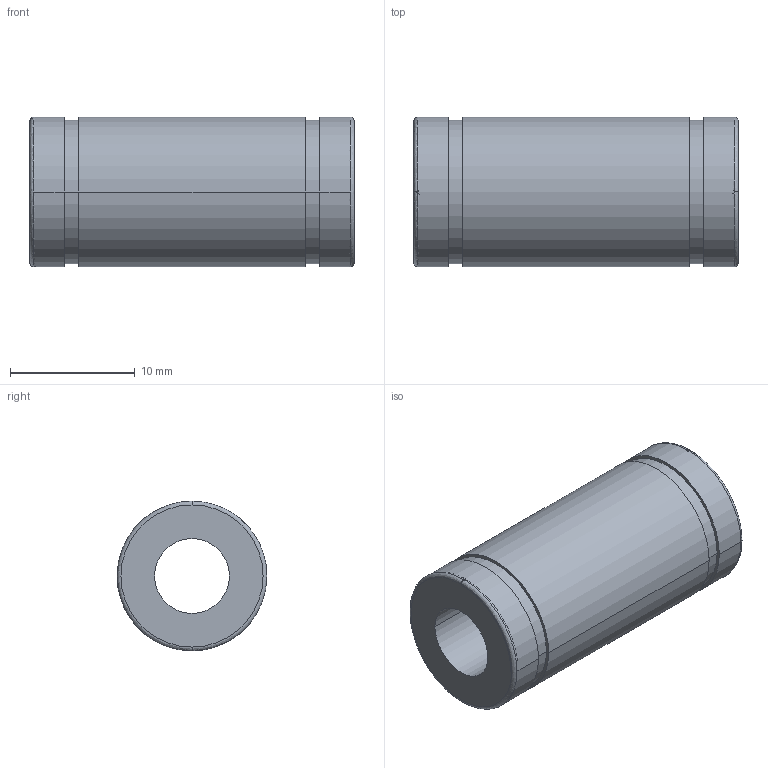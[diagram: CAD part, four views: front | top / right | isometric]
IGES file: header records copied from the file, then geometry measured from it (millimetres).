
Start section: 3D InterOp IGES (Version 21 0 1), Spatial Corp. Copyright (c) 1999-2007.
Global section: file name: N-6VM.igs; native system: Spatial Corp.; preprocessor: 3D InterOp GENERIC/IGES 3.0; author: Noname; organization: Noname; date: 20220516.092832; units: millimetre
Bounding box: 26 x 12 x 12 mm (x, y, z)
Surface area: 1863.7 mm2 (no closed solid volume)
Topology: 0 solids, 0 shells, 22 faces, 108 edges, 104 vertices
Faces by surface type: revolution 16, extrusion 6
